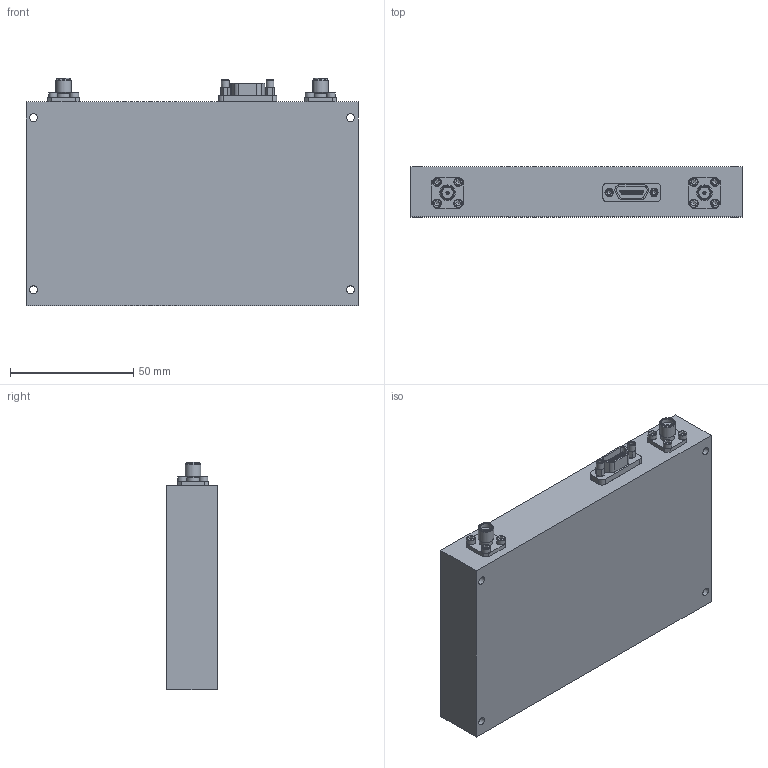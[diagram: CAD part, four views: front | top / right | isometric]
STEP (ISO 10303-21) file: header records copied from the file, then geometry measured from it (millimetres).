
FILE_DESCRIPTION((''),'2;1');
FILE_NAME('\\SERPENTOR\Engineering\ENG\Models\TTRMxxxx\TTRM1076\Inventor\140.stp','2015-07-23T12:04:57',('dcampbell'),(''),'Autodesk Inventor 2013','Autodesk Inventor 2013','');
FILE_SCHEMA(('AUTOMOTIVE_DESIGN { 1 0 10303 214 1 1 1 1 }'));
Length unit declared in the file: inch
Products named in the file (7): OL_140; 410-002; 410-002_1; Hexagon Socket Head Cap Screw - Inch No. 2 - 56 UNC - 3/16; 400-072; 561-002
Assembly tree (14 placements, depth 2):
  OL_140
    OL_140
    410-002
    410-002_1
    Hexagon Socket Head Cap Screw - Inch No. 2 - 56 UNC - 3/16  x8
    400-072
    561-002  x2
Bounding box: 134.62 x 20.32 x 92.08 mm (x, y, z)
Volume: 227198.4 mm3; surface area: 35245.2 mm2
Topology: 14 solids, 14 shells, 370 faces, 768 edges, 492 vertices
Faces by surface type: plane 218, cylinder 108, cone 28, torus 16
Full cylindrical faces by diameter (mm): 0.635 x15, 0.737 x2, 0.889 x15, 1.016 x4, 1.245 x2, 1.295 x2, 1.702 x2, 2.032 x2, 2.159 x2, 2.184 x8, 2.438 x2, 2.591 x8, 2.616 x2, 3.15 x2, 3.251 x4, 3.556 x8, 4.597 x2, 5.486 x4, 6.35 x2
Entity records: 6200 total; most frequent: DIRECTION 1100, CARTESIAN_POINT 965, ORIENTED_EDGE 780, AXIS2_PLACEMENT_3D 459, EDGE_LOOP 404, EDGE_CURVE 390, VERTEX_POINT 306, FACE_OUTER_BOUND 236
